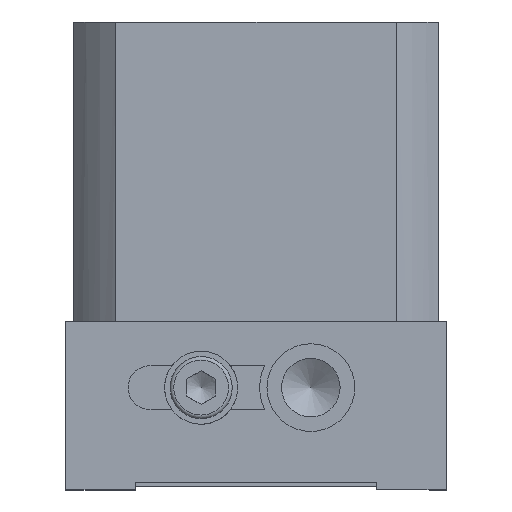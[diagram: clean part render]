
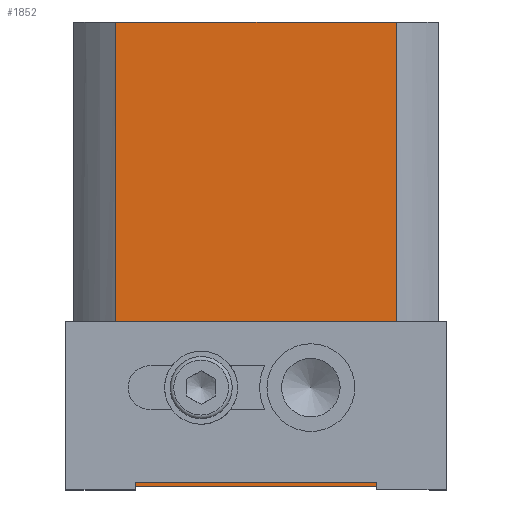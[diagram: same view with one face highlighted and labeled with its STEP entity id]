
A CAD part, left-side view. The second image highlights one B-rep face of the part: STEP entity #1852.
In plain terms, the highlighted planar face has unit normal (-1, 0, 0).
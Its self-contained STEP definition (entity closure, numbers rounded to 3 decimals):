
#1791=CARTESIAN_POINT('',(-25.,44.164,0.0));
#1792=DIRECTION('',(-1.0,0.0,0.0));
#1793=DIRECTION('',(0.0,0.0,1.0));
#1794=AXIS2_PLACEMENT_3D('',#1791,#1792,#1793);
#1795=PLANE('',#1794);
#1796=CARTESIAN_POINT('',(-25.,5.836,0.0));
#1797=VERTEX_POINT('',#1796);
#1798=CARTESIAN_POINT('',(-25.,5.836,-63.5));
#1799=VERTEX_POINT('',#1798);
#1800=CARTESIAN_POINT('',(-25.,5.836,0.0));
#1801=DIRECTION('',(0.0,0.0,-1.0));
#1802=VECTOR('',#1801,63.5);
#1803=LINE('',#1800,#1802);
#1804=EDGE_CURVE('',#1797,#1799,#1803,.T.);
#1805=ORIENTED_EDGE('',*,*,#1804,.F.);
#1806=CARTESIAN_POINT('',(-25.,44.164,0.0));
#1807=VERTEX_POINT('',#1806);
#1808=CARTESIAN_POINT('',(-25.,44.164,0.0));
#1809=DIRECTION('',(0.0,-1.0,0.0));
#1810=VECTOR('',#1809,38.328);
#1811=LINE('',#1808,#1810);
#1812=EDGE_CURVE('',#1807,#1797,#1811,.T.);
#1813=ORIENTED_EDGE('',*,*,#1812,.F.);
#1814=CARTESIAN_POINT('',(-25.,44.164,-63.5));
#1815=VERTEX_POINT('',#1814);
#1816=CARTESIAN_POINT('',(-25.,44.164,0.0));
#1817=DIRECTION('',(0.0,0.0,-1.0));
#1818=VECTOR('',#1817,63.5);
#1819=LINE('',#1816,#1818);
#1820=EDGE_CURVE('',#1807,#1815,#1819,.T.);
#1821=ORIENTED_EDGE('',*,*,#1820,.T.);
#1822=CARTESIAN_POINT('',(-25.,44.164,-63.5));
#1823=DIRECTION('',(0.0,-1.0,0.0));
#1824=VECTOR('',#1823,38.328);
#1825=LINE('',#1822,#1824);
#1826=EDGE_CURVE('',#1815,#1799,#1825,.T.);
#1827=ORIENTED_EDGE('',*,*,#1826,.T.);
#1828=EDGE_LOOP('',(#1805,#1813,#1821,#1827));
#1829=FACE_OUTER_BOUND('',#1828,.T.);
#1830=CARTESIAN_POINT('',(-25.,32.5,-44.0));
#1831=VERTEX_POINT('',#1830);
#1832=CARTESIAN_POINT('',(-25.,32.5,-50.0));
#1833=DIRECTION('',(1.0,0.0,0.0));
#1834=DIRECTION('',(0.0,0.0,-1.0));
#1835=AXIS2_PLACEMENT_3D('',#1832,#1833,#1834);
#1836=CIRCLE('',#1835,6.);
#1837=EDGE_CURVE('',#1831,#1831,#1836,.T.);
#1838=ORIENTED_EDGE('',*,*,#1837,.T.);
#1839=EDGE_LOOP('',(#1838));
#1840=FACE_BOUND('',#1839,.T.);
#1841=CARTESIAN_POINT('',(-25.,17.5,-44.0));
#1842=VERTEX_POINT('',#1841);
#1843=CARTESIAN_POINT('',(-25.,17.5,-50.0));
#1844=DIRECTION('',(-1.0,0.0,0.0));
#1845=DIRECTION('',(0.0,-1.0,0.0));
#1846=AXIS2_PLACEMENT_3D('',#1843,#1844,#1845);
#1847=CIRCLE('',#1846,6.);
#1848=EDGE_CURVE('',#1842,#1842,#1847,.T.);
#1849=ORIENTED_EDGE('',*,*,#1848,.F.);
#1850=EDGE_LOOP('',(#1849));
#1851=FACE_BOUND('',#1850,.T.);
#1852=ADVANCED_FACE('',(#1829,#1840,#1851),#1795,.T.);
